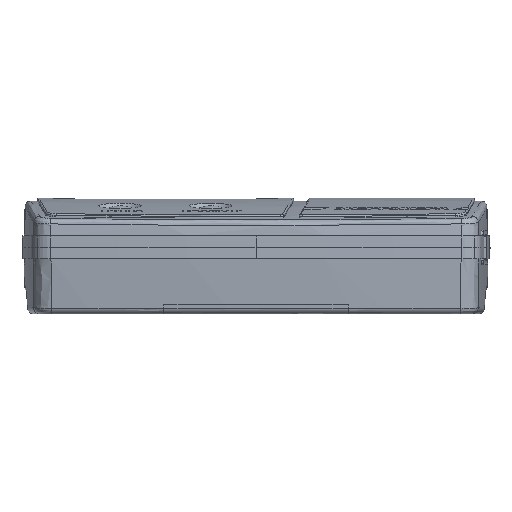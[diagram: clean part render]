
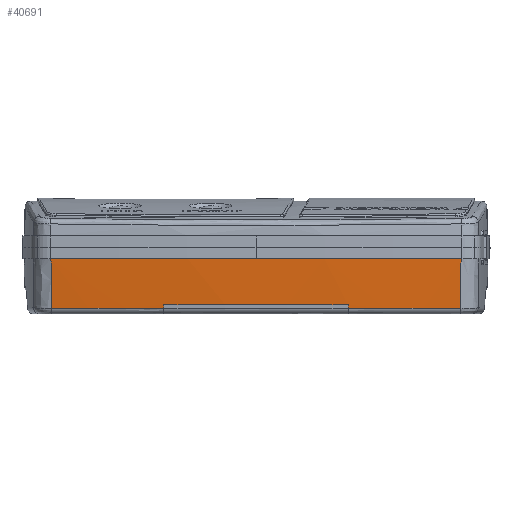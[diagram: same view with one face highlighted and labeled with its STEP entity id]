
A CAD part, front view. The second image highlights one B-rep face of the part: STEP entity #40691.
In plain terms, the highlighted conical face has half-angle 5 degrees and reference radius 999.2 mm.
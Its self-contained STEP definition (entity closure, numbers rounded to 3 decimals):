
#174 = EDGE_CURVE ( 'NONE', #62467, #31681, #14970, .T. ) ;
#674 = DIRECTION ( 'NONE',  ( 1., 0., 0. ) ) ;
#1056 = CARTESIAN_POINT ( 'NONE',  ( 67.77, 3.293, -23.974 ) ) ;
#1153 = VERTEX_POINT ( 'NONE', #20076 ) ;
#1190 =( BOUNDED_CURVE ( )  B_SPLINE_CURVE ( 2, ( #67157, #18731, #3675 ),
 .UNSPECIFIED., .F., .F. ) 
 B_SPLINE_CURVE_WITH_KNOTS ( ( 3, 3 ),
 ( 46.425, 47.605 ),
 .UNSPECIFIED. ) 
 CURVE ( )  GEOMETRIC_REPRESENTATION_ITEM ( )  RATIONAL_B_SPLINE_CURVE ( ( 1., 1., 1. ) ) 
 REPRESENTATION_ITEM ( '' )  );
#1265 = LINE ( 'NONE', #15956, #38530 ) ;
#1318 = DIRECTION ( 'NONE',  ( 1., 0., 0. ) ) ;
#2310 = CARTESIAN_POINT ( 'NONE',  ( -67.845, 2.469, -14.8 ) ) ;
#2318 = CARTESIAN_POINT ( 'NONE',  ( -0.184, 999.156, -23.974 ) ) ;
#2686 = AXIS2_PLACEMENT_3D ( 'NONE', #39664, #33448, #1318 ) ;
#2696 = CARTESIAN_POINT ( 'NONE',  ( 67.863, 2.285, -12.4 ) ) ;
#2991 = CARTESIAN_POINT ( 'NONE',  ( -67.771, 3.268, -23.974 ) ) ;
#3675 = CARTESIAN_POINT ( 'NONE',  ( 30.499, 1.449, -23.974 ) ) ;
#4066 = CONICAL_SURFACE ( 'NONE', #48658, 999.2, 0.087 ) ;
#4654 = EDGE_CURVE ( 'NONE', #65291, #52733, #51901, .T. ) ;
#4701 = CARTESIAN_POINT ( 'NONE',  ( -0.184, 999.156, -23.974 ) ) ;
#5505 = AXIS2_PLACEMENT_3D ( 'NONE', #4701, #19026, #51125 ) ;
#5603 = CARTESIAN_POINT ( 'NONE',  ( 67.772, 3.278, -23.8 ) ) ;
#5908 = FACE_OUTER_BOUND ( 'NONE', #53796, .T. ) ;
#6307 = AXIS2_PLACEMENT_3D ( 'NONE', #2318, #23615, #40001 ) ;
#6844 = VERTEX_POINT ( 'NONE', #21216 ) ;
#7147 = EDGE_CURVE ( 'NONE', #50565, #1153, #14415, .T. ) ;
#7794 = EDGE_CURVE ( 'NONE', #31681, #65291, #32398, .T. ) ;
#8581 = EDGE_CURVE ( 'NONE', #60900, #62467, #62965, .T. ) ;
#9157 = B_SPLINE_CURVE_WITH_KNOTS ( 'NONE', 3,
 ( #65466, #65806, #38975, #22282 ),
 .UNSPECIFIED., .F., .F.,
 ( 4, 4 ),
 ( -22.151, -13.117 ),
 .UNSPECIFIED. ) ;
#9218 = CARTESIAN_POINT ( 'NONE',  ( 30.499, 1.347, -22.8 ) ) ;
#9607 = DIRECTION ( 'NONE',  ( 0., 0., 1. ) ) ;
#10191 = VERTEX_POINT ( 'NONE', #54821 ) ;
#10355 = EDGE_CURVE ( 'NONE', #52733, #50565, #42909, .T. ) ;
#11752 = EDGE_CURVE ( 'NONE', #33699, #10191, #66866, .T. ) ;
#12170 = ORIENTED_EDGE ( 'NONE', *, *, #7794, .F. ) ;
#12230 = ORIENTED_EDGE ( 'NONE', *, *, #11752, .F. ) ;
#12657 = CIRCLE ( 'NONE', #68358, 998.281 ) ;
#13224 = CARTESIAN_POINT ( 'NONE',  ( 67.882, 2.076, -10. ) ) ;
#13497 = CARTESIAN_POINT ( 'NONE',  ( 67.844, 2.494, -14.8 ) ) ;
#13823 = CARTESIAN_POINT ( 'NONE',  ( 67.82, 2.755, -17.8 ) ) ;
#14183 = ORIENTED_EDGE ( 'NONE', *, *, #7147, .F. ) ;
#14415 = CIRCLE ( 'NONE', #5505, 998.179 ) ;
#14526 = EDGE_CURVE ( 'NONE', #10191, #60900, #9157, .T. ) ;
#14970 = CIRCLE ( 'NONE', #2686, 999.611 ) ;
#15286 = ORIENTED_EDGE ( 'NONE', *, *, #8581, .F. ) ;
#15892 = DIRECTION ( 'NONE',  ( 1., 0., 0. ) ) ;
#15956 = CARTESIAN_POINT ( 'NONE',  ( -30.501, 1.387, -23.39 ) ) ;
#17423 = ORIENTED_EDGE ( 'NONE', *, *, #4654, .F. ) ;
#18731 = CARTESIAN_POINT ( 'NONE',  ( 30.499, 1.398, -23.387 ) ) ;
#19026 = DIRECTION ( 'NONE',  ( 0., 0., -1. ) ) ;
#19850 = ORIENTED_EDGE ( 'NONE', *, *, #39567, .T. ) ;
#20076 = CARTESIAN_POINT ( 'NONE',  ( 30.499, 1.449, -23.974 ) ) ;
#20687 = VERTEX_POINT ( 'NONE', #9218 ) ;
#21216 = CARTESIAN_POINT ( 'NONE',  ( -30.501, 1.335, -22.8 ) ) ;
#22282 = CARTESIAN_POINT ( 'NONE',  ( -67.845, 2.469, -14.8 ) ) ;
#23189 = CARTESIAN_POINT ( 'NONE',  ( -67.864, 2.26, -12.4 ) ) ;
#23615 = DIRECTION ( 'NONE',  ( 0., 0., -1. ) ) ;
#24948 = CARTESIAN_POINT ( 'NONE',  ( -67.771, 3.263, -23.916 ) ) ;
#25792 = VERTEX_POINT ( 'NONE', #38166 ) ;
#26347 = CIRCLE ( 'NONE', #6307, 998.179 ) ;
#26885 = CARTESIAN_POINT ( 'NONE',  ( 67.771, 3.283, -23.858 ) ) ;
#27188 = DIRECTION ( 'NONE',  ( 0., 0., 1. ) ) ;
#28370 = CARTESIAN_POINT ( 'NONE',  ( -67.902, 1.841, -7.6 ) ) ;
#31527 = ORIENTED_EDGE ( 'NONE', *, *, #46138, .T. ) ;
#31681 = VERTEX_POINT ( 'NONE', #43801 ) ;
#32398 = B_SPLINE_CURVE_WITH_KNOTS ( 'NONE', 3,
 ( #49843, #13224, #2696, #55762 ),
 .UNSPECIFIED., .F., .F.,
 ( 4, 4 ),
 ( 7.392, 14.62 ),
 .UNSPECIFIED. ) ;
#33401 = EDGE_CURVE ( 'NONE', #6844, #20687, #12657, .T. ) ;
#33448 = DIRECTION ( 'NONE',  ( 0., 0., 1. ) ) ;
#33699 = VERTEX_POINT ( 'NONE', #34997 ) ;
#34777 = CARTESIAN_POINT ( 'NONE',  ( 67.772, 3.278, -23.8 ) ) ;
#34997 = CARTESIAN_POINT ( 'NONE',  ( -67.771, 3.268, -23.974 ) ) ;
#38166 = CARTESIAN_POINT ( 'NONE',  ( -30.501, 1.438, -23.974 ) ) ;
#38530 = VECTOR ( 'NONE', #59184, 1000. ) ;
#38975 = CARTESIAN_POINT ( 'NONE',  ( -67.821, 2.73, -17.8 ) ) ;
#39567 = EDGE_CURVE ( 'NONE', #25792, #6844, #1265, .T. ) ;
#39664 = CARTESIAN_POINT ( 'NONE',  ( -0.184, 999.156, -7.6 ) ) ;
#40001 = DIRECTION ( 'NONE',  ( -0.048, -0.999, 0. ) ) ;
#40691 = ADVANCED_FACE ( 'NONE', ( #5908 ), #4066, .T. ) ;
#42804 = CARTESIAN_POINT ( 'NONE',  ( -67.902, 1.841, -7.6 ) ) ;
#42909 = B_SPLINE_CURVE_WITH_KNOTS ( 'NONE', 3,
 ( #5603, #26885, #48856, #1056 ),
 .UNSPECIFIED., .F., .F.,
 ( 4, 4 ),
 ( 23.654, 23.829 ),
 .UNSPECIFIED. ) ;
#43801 = CARTESIAN_POINT ( 'NONE',  ( 67.901, 1.866, -7.6 ) ) ;
#44444 = CARTESIAN_POINT ( 'NONE',  ( -67.845, 2.469, -14.8 ) ) ;
#45450 = CARTESIAN_POINT ( 'NONE',  ( -67.883, 2.051, -10. ) ) ;
#46138 = EDGE_CURVE ( 'NONE', #20687, #1153, #1190, .T. ) ;
#46212 = CARTESIAN_POINT ( 'NONE',  ( -67.772, 3.258, -23.858 ) ) ;
#47625 = CARTESIAN_POINT ( 'NONE',  ( -0.184, 999.156, -22.8 ) ) ;
#48658 = AXIS2_PLACEMENT_3D ( 'NONE', #54413, #27188, #674 ) ;
#48856 = CARTESIAN_POINT ( 'NONE',  ( 67.771, 3.288, -23.916 ) ) ;
#49452 = CARTESIAN_POINT ( 'NONE',  ( 67.77, 3.293, -23.974 ) ) ;
#49843 = CARTESIAN_POINT ( 'NONE',  ( 67.901, 1.866, -7.6 ) ) ;
#50565 = VERTEX_POINT ( 'NONE', #49452 ) ;
#51125 = DIRECTION ( 'NONE',  ( 0.049, -0.999, 0. ) ) ;
#51901 = B_SPLINE_CURVE_WITH_KNOTS ( 'NONE', 3,
 ( #13497, #13823, #56738, #34777 ),
 .UNSPECIFIED., .F., .F.,
 ( 4, 4 ),
 ( 14.62, 23.654 ),
 .UNSPECIFIED. ) ;
#52416 = ORIENTED_EDGE ( 'NONE', *, *, #10355, .F. ) ;
#52733 = VERTEX_POINT ( 'NONE', #55823 ) ;
#53796 = EDGE_LOOP ( 'NONE', ( #31527, #14183, #52416, #17423, #12170, #66016, #15286, #66704, #12230, #61239, #19850, #67235 ) ) ;
#54413 = CARTESIAN_POINT ( 'NONE',  ( -0.184, 999.156, -12.3 ) ) ;
#54545 = EDGE_CURVE ( 'NONE', #25792, #33699, #26347, .T. ) ;
#54821 = CARTESIAN_POINT ( 'NONE',  ( -67.772, 3.253, -23.8 ) ) ;
#55762 = CARTESIAN_POINT ( 'NONE',  ( 67.844, 2.494, -14.8 ) ) ;
#55823 = CARTESIAN_POINT ( 'NONE',  ( 67.772, 3.278, -23.8 ) ) ;
#56738 = CARTESIAN_POINT ( 'NONE',  ( 67.796, 3.017, -20.8 ) ) ;
#57644 = CARTESIAN_POINT ( 'NONE',  ( 67.844, 2.494, -14.8 ) ) ;
#59184 = DIRECTION ( 'NONE',  ( 0., -0.087, 0.996 ) ) ;
#60900 = VERTEX_POINT ( 'NONE', #2310 ) ;
#61239 = ORIENTED_EDGE ( 'NONE', *, *, #54545, .F. ) ;
#61251 = CARTESIAN_POINT ( 'NONE',  ( -67.772, 3.253, -23.8 ) ) ;
#62467 = VERTEX_POINT ( 'NONE', #42804 ) ;
#62965 = B_SPLINE_CURVE_WITH_KNOTS ( 'NONE', 3,
 ( #44444, #23189, #45450, #28370 ),
 .UNSPECIFIED., .F., .F.,
 ( 4, 4 ),
 ( -13.117, -5.889 ),
 .UNSPECIFIED. ) ;
#65291 = VERTEX_POINT ( 'NONE', #57644 ) ;
#65466 = CARTESIAN_POINT ( 'NONE',  ( -67.772, 3.253, -23.8 ) ) ;
#65806 = CARTESIAN_POINT ( 'NONE',  ( -67.797, 2.992, -20.8 ) ) ;
#66016 = ORIENTED_EDGE ( 'NONE', *, *, #174, .F. ) ;
#66704 = ORIENTED_EDGE ( 'NONE', *, *, #14526, .F. ) ;
#66866 = B_SPLINE_CURVE_WITH_KNOTS ( 'NONE', 3,
 ( #2991, #24948, #46212, #61251 ),
 .UNSPECIFIED., .F., .F.,
 ( 4, 4 ),
 ( -22.326, -22.151 ),
 .UNSPECIFIED. ) ;
#67157 = CARTESIAN_POINT ( 'NONE',  ( 30.499, 1.347, -22.8 ) ) ;
#67235 = ORIENTED_EDGE ( 'NONE', *, *, #33401, .T. ) ;
#68358 = AXIS2_PLACEMENT_3D ( 'NONE', #47625, #9607, #15892 ) ;
